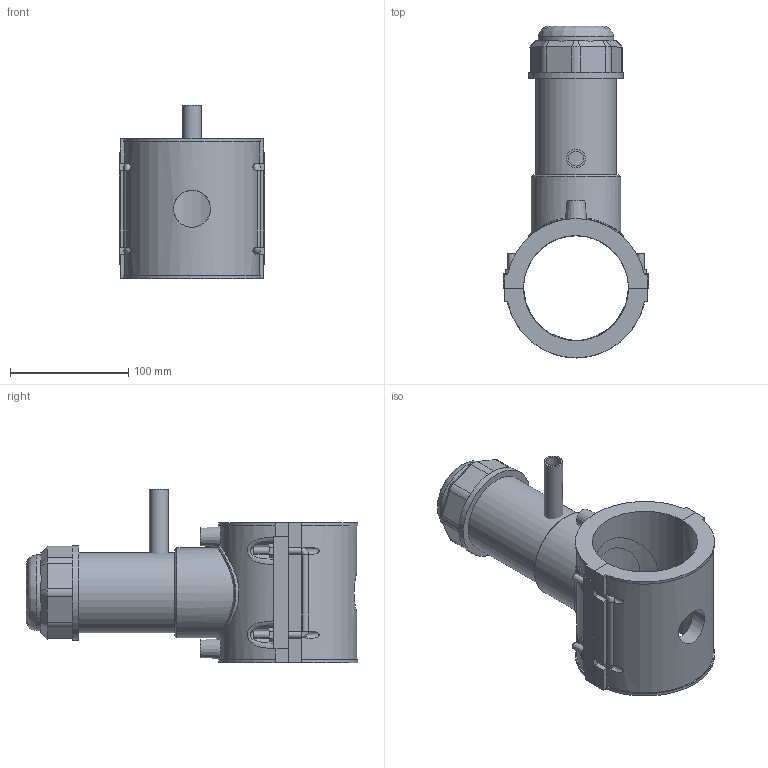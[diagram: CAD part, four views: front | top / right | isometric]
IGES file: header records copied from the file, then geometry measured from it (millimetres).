
Global section: file name: 5963BUP3030005.ipt; native system: Autodesk Inventor 2019; preprocessor: unknown; author: KIM; date: 20210830.101611; units: inch
Bounding box: 122.9 x 280.2 x 146.43 mm (x, y, z)
Volume: 929051.4 mm3; surface area: 186712.2 mm2
Topology: 3 solids, 3 shells, 204 faces, 526 edges, 343 vertices
Faces by surface type: plane 125, cylinder 37, revolution 21, cone 15, bspline 6
Full cylindrical faces by diameter (mm): 4 x2, 6 x8, 15.8 x1, 63.864 x1, 67.856 x1, 75.839 x1, 79.83 x1
